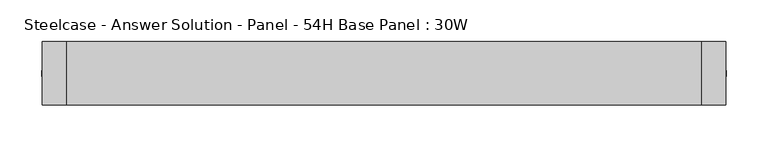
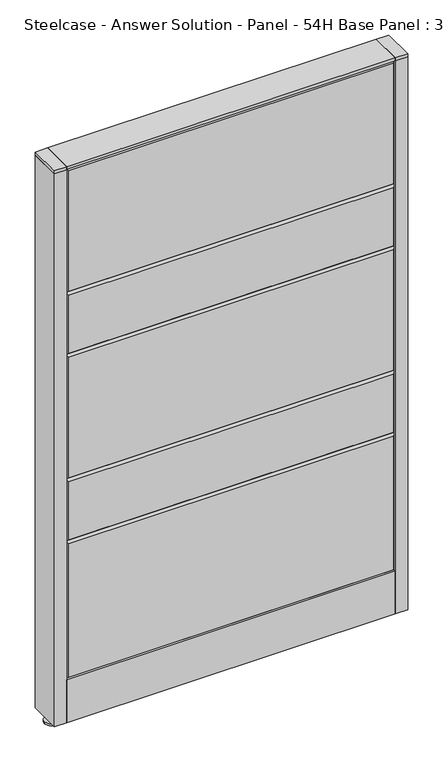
"""IFC4 building model written with IfcOpenShell, lengths in millimetres: furniture geometry, Steelcase - Answer Solution - Panel - 54H Base Panel : 30W."""

from ifc_helpers import new_model, si_unit, point, frame, frame_2d, origin, place, context, project, spatial, polyline, circle_curve, trimmed, segment, composite_curve, outline, extrude, faceted_brep, source, transform, mapped, element, save


def steelcase_answer_solution_panel_54h_base_panel_30w_522abe94(model_context):
    return source(origin(), model_context, "Body", "SolidModel", [
        extrude(outline(composite_curve([segment(trimmed(circle_curve(frame_2d((395.224, 0.0320214)), 5.08), [point((400.304, 0.0320214))], [point((390.144, 0.0320214))], False, "CARTESIAN"), True, "CONTINUOUS"), segment(trimmed(circle_curve(frame_2d((395.224, 0.0320214)), 5.08), [point((390.144, 0.0320214))], [point((400.304, 0.0320214))], False, "CARTESIAN"), True, "CONTINUOUS")], self_intersect=False)), frame((0.0, 0.0, 5.0799671), z_axis=(0.0, 0.0, 1.0), x_axis=(1.0, 0.0, 0.0)), (0.0, 0.0, 1.0), 10.414),
        extrude(outline(composite_curve([segment(trimmed(circle_curve(frame_2d((395.224, 0.0320214)), 15.24), [point((410.464, 0.0320214))], [point((379.984, 0.0320214))], False, "CARTESIAN"), True, "CONTINUOUS"), segment(trimmed(circle_curve(frame_2d((395.224, 0.0320214)), 15.24), [point((379.984, 0.0320214))], [point((410.464, 0.0320214))], False, "CARTESIAN"), True, "CONTINUOUS")], self_intersect=False)), frame((0.0, 0.0, -3.29e-05), z_axis=(0.0, 0.0, 1.0), x_axis=(1.0, 0.0, 0.0)), (0.0, 0.0, 1.0), 5.08),
        extrude(outline(polyline([(409.575, 38.1320408), (409.575, -38.0679592), (381.0, -38.0679592), (381.0, 38.1320408), (409.575, 38.1320408)])), frame((0.0, 0.0, 1370.6348), z_axis=(0.0, 0.0, 1.0), x_axis=(1.0, 0.0, 0.0)), (0.0, 0.0, 1.0), 7.3151671),
        extrude(outline(polyline([(409.575, 38.1320408), (409.575, -38.0679592), (381.0, -38.0679592), (381.0, 38.1320408), (409.575, 38.1320408)])), frame((0.0, 0.0, 15.4939671), z_axis=(0.0, 0.0, 1.0), x_axis=(1.0, 0.0, 0.0)), (0.0, 0.0, 1.0), 1355.1408329),
        extrude(outline(composite_curve([segment(trimmed(circle_curve(frame_2d((-395.224, 0.0320214)), 5.08), [point((-400.304, 0.0320214))], [point((-390.144, 0.0320214))], False, "CARTESIAN"), True, "CONTINUOUS"), segment(trimmed(circle_curve(frame_2d((-395.224, 0.0320214)), 5.08), [point((-390.144, 0.0320214))], [point((-400.304, 0.0320214))], False, "CARTESIAN"), True, "CONTINUOUS")], self_intersect=False)), frame((0.0, 0.0, 5.0799671), z_axis=(0.0, 0.0, 1.0), x_axis=(1.0, 0.0, 0.0)), (0.0, 0.0, 1.0), 10.414),
        extrude(outline(composite_curve([segment(trimmed(circle_curve(frame_2d((-395.224, 0.0320214)), 15.24), [point((-410.464, 0.0320214))], [point((-379.984, 0.0320214))], False, "CARTESIAN"), True, "CONTINUOUS"), segment(trimmed(circle_curve(frame_2d((-395.224, 0.0320214)), 15.24), [point((-379.984, 0.0320214))], [point((-410.464, 0.0320214))], False, "CARTESIAN"), True, "CONTINUOUS")], self_intersect=False)), frame((0.0, 0.0, -3.29e-05), z_axis=(0.0, 0.0, 1.0), x_axis=(1.0, 0.0, 0.0)), (0.0, 0.0, 1.0), 5.08),
        extrude(outline(polyline([(-409.575, 38.1320408), (-381.0, 38.1320408), (-381.0, -38.0679592), (-409.575, -38.0679592), (-409.575, 38.1320408)])), frame((0.0, 0.0, 1370.6348), z_axis=(0.0, 0.0, 1.0), x_axis=(1.0, 0.0, 0.0)), (0.0, 0.0, 1.0), 7.3151671),
        extrude(outline(polyline([(-409.575, 38.1320408), (-381.0, 38.1320408), (-381.0, -38.0679592), (-409.575, -38.0679592), (-409.575, 38.1320408)])), frame((0.0, 0.0, 15.4939671), z_axis=(0.0, 0.0, 1.0), x_axis=(1.0, 0.0, 0.0)), (0.0, 0.0, 1.0), 1355.1408329),
        faceted_brep([(-376.174, 38.1635011, 1366.774), (376.174, 38.1635011, 1366.774), (376.174, 38.1635011, 1071.626), (-376.174, 38.1635011, 1071.626), (-381.0, 33.3375011, 1371.6), (-381.0, 33.3375011, 1066.8), (381.0, 33.3375011, 1066.8), (381.0, 33.3375011, 1371.6)], [[[0, 1, 2, 3]], [[4, 5, 6, 7]], [[4, 7, 1, 0]], [[7, 6, 2, 1]], [[6, 5, 3, 2]], [[5, 4, 0, 3]]]),
        faceted_brep([(-376.174, 38.1635011, 1061.974), (376.174, 38.1635011, 1061.974), (376.174, 38.1635011, 919.226), (-376.174, 38.1635011, 919.226), (-381.0, 33.3375011, 1066.8), (-381.0, 33.3375011, 914.4), (381.0, 33.3375011, 914.4), (381.0, 33.3375011, 1066.8)], [[[0, 1, 2, 3]], [[4, 5, 6, 7]], [[4, 7, 1, 0]], [[7, 6, 2, 1]], [[6, 5, 3, 2]], [[5, 4, 0, 3]]]),
        faceted_brep([(-376.174, 38.1635011, 909.574), (376.174, 38.1635011, 909.574), (376.174, 38.1635011, 614.426), (-376.174, 38.1635011, 614.426), (-381.0, 33.3375011, 914.4), (-381.0, 33.3375011, 609.6), (381.0, 33.3375011, 609.6), (381.0, 33.3375011, 914.4)], [[[0, 1, 2, 3]], [[4, 5, 6, 7]], [[4, 7, 1, 0]], [[7, 6, 2, 1]], [[6, 5, 3, 2]], [[5, 4, 0, 3]]]),
        faceted_brep([(-376.174, 38.1635011, 604.774), (376.174, 38.1635011, 604.774), (376.174, 38.1635011, 462.026), (-376.174, 38.1635011, 462.026), (-381.0, 33.3375011, 609.6), (-381.0, 33.3375011, 457.2), (381.0, 33.3375011, 457.2), (381.0, 33.3375011, 609.6)], [[[0, 1, 2, 3]], [[4, 5, 6, 7]], [[4, 7, 1, 0]], [[7, 6, 2, 1]], [[6, 5, 3, 2]], [[5, 4, 0, 3]]]),
        faceted_brep([(-376.174, 38.1635011, 452.374), (376.174, 38.1635011, 452.374), (376.174, 38.1635011, 125.476), (-376.174, 38.1635011, 125.476), (-381.0, 33.3375011, 457.2), (-381.0, 33.3375011, 120.65), (381.0, 33.3375011, 120.65), (381.0, 33.3375011, 457.2)], [[[0, 1, 2, 3]], [[4, 5, 6, 7]], [[4, 7, 1, 0]], [[7, 6, 2, 1]], [[6, 5, 3, 2]], [[5, 4, 0, 3]]]),
        faceted_brep([(376.174, -38.1635011, 1366.774), (-376.174, -38.1635011, 1366.774), (-376.174, -38.1635011, 1071.626), (376.174, -38.1635011, 1071.626), (381.0, -33.3375011, 1371.6), (381.0, -33.3375011, 1066.8), (-381.0, -33.3375011, 1066.8), (-381.0, -33.3375011, 1371.6)], [[[0, 1, 2, 3]], [[4, 5, 6, 7]], [[4, 7, 1, 0]], [[7, 6, 2, 1]], [[6, 5, 3, 2]], [[5, 4, 0, 3]]]),
        faceted_brep([(376.174, -38.1635011, 1061.974), (-376.174, -38.1635011, 1061.974), (-376.174, -38.1635011, 919.226), (376.174, -38.1635011, 919.226), (381.0, -33.3375011, 1066.8), (381.0, -33.3375011, 914.4), (-381.0, -33.3375011, 914.4), (-381.0, -33.3375011, 1066.8)], [[[0, 1, 2, 3]], [[4, 5, 6, 7]], [[4, 7, 1, 0]], [[7, 6, 2, 1]], [[6, 5, 3, 2]], [[5, 4, 0, 3]]]),
        faceted_brep([(376.174, -38.1635011, 909.574), (-376.174, -38.1635011, 909.574), (-376.174, -38.1635011, 614.426), (376.174, -38.1635011, 614.426), (381.0, -33.3375011, 914.4), (381.0, -33.3375011, 609.6), (-381.0, -33.3375011, 609.6), (-381.0, -33.3375011, 914.4)], [[[0, 1, 2, 3]], [[4, 5, 6, 7]], [[4, 7, 1, 0]], [[7, 6, 2, 1]], [[6, 5, 3, 2]], [[5, 4, 0, 3]]]),
        faceted_brep([(376.174, -38.1635011, 604.774), (-376.174, -38.1635011, 604.774), (-376.174, -38.1635011, 462.026), (376.174, -38.1635011, 462.026), (381.0, -33.3375011, 609.6), (381.0, -33.3375011, 457.2), (-381.0, -33.3375011, 457.2), (-381.0, -33.3375011, 609.6)], [[[0, 1, 2, 3]], [[4, 5, 6, 7]], [[4, 7, 1, 0]], [[7, 6, 2, 1]], [[6, 5, 3, 2]], [[5, 4, 0, 3]]]),
        faceted_brep([(376.174, -38.1635011, 452.374), (-376.174, -38.1635011, 452.374), (-376.174, -38.1635011, 125.476), (376.174, -38.1635011, 125.476), (381.0, -33.3375011, 457.2), (381.0, -33.3375011, 120.65), (-381.0, -33.3375011, 120.65), (-381.0, -33.3375011, 457.2)], [[[0, 1, 2, 3]], [[4, 5, 6, 7]], [[4, 7, 1, 0]], [[7, 6, 2, 1]], [[6, 5, 3, 2]], [[5, 4, 0, 3]]]),
        extrude(outline(polyline([(381.0, 38.1000194), (381.0, -38.1000194), (-381.0, -38.1000194), (-381.0, 38.1000194), (381.0, 38.1000194)])), frame((0.0, 0.0, 1371.6), z_axis=(0.0, 0.0, 1.0), x_axis=(1.0, 0.0, 0.0)), (0.0, 0.0, 1.0), 6.35),
        extrude(outline(polyline([(25.4000011, 119.8575157), (25.4000011, 120.65), (38.1000194, 120.65), (38.1000194, 15.494), (37.3075215, 15.494), (37.3075215, 119.8575157), (25.4000011, 119.8575157)])), frame((-381.0, 0.0, 0.0), z_axis=(1.0, 0.0, 0.0), x_axis=(0.0, 1.0, 0.0)), (0.0, 0.0, 1.0), 762.0),
        extrude(outline(polyline([(-25.4000011, 119.8575157), (-37.3075215, 119.8575157), (-37.3075215, 15.494), (-38.1000194, 15.494), (-38.1000194, 120.65), (-25.4000011, 120.65), (-25.4000011, 119.8575157)])), frame((-381.0, 0.0, 0.0), z_axis=(1.0, 0.0, 0.0), x_axis=(0.0, 1.0, 0.0)), (0.0, 0.0, 1.0), 762.0),
    ])


if __name__ == "__main__":
    model = new_model("IFC4")
    model_context = context("Model", 3, world=origin())
    ifc_project = project(units=[si_unit("LENGTHUNIT", "METRE", prefix="MILLI")], contexts=[model_context])
    site = spatial("IfcSite", under=ifc_project)
    building = spatial("IfcBuilding", under=site)
    placement = place(None, origin())
    steelcase_answer_solution_panel_54h_base_panel_30w_shape = steelcase_answer_solution_panel_54h_base_panel_30w_522abe94(model_context)
    element("IfcFurniture", 1, ObjectType="Steelcase - Answer Solution - Panel - 54H Base Panel : 30W", at=placement, inside=building, context=model_context, shape_type="MappedRepresentation", body=[
        mapped(steelcase_answer_solution_panel_54h_base_panel_30w_shape, transform((0.0, 0.0, 0.0), x_axis=(1.0, 0.0, 0.0), y_axis=(0.0, 1.0, 0.0), z_axis=(0.0, 0.0, 1.0))),
    ])
    save(model, "model.ifc")
